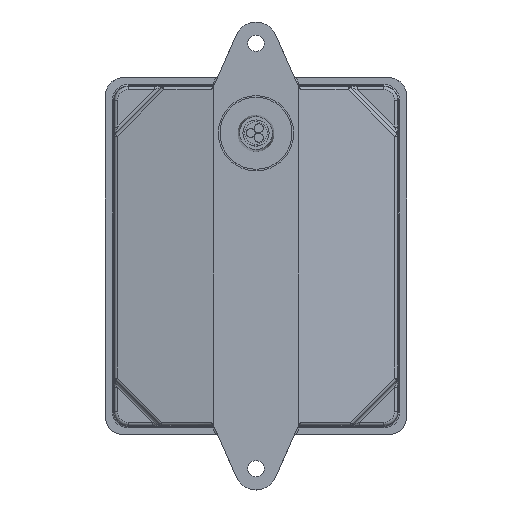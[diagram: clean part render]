
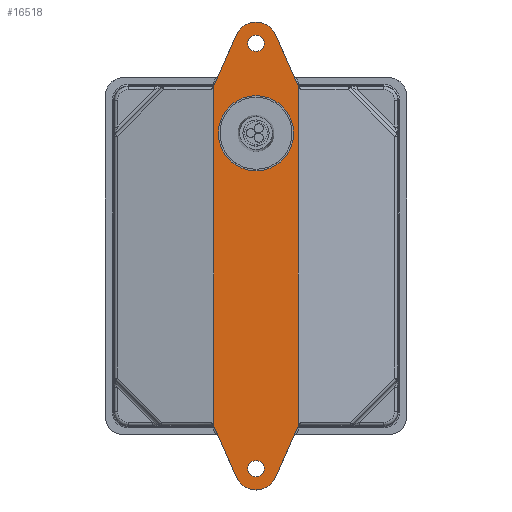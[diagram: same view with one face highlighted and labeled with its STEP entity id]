
A CAD part, top view. The second image highlights one B-rep face of the part: STEP entity #16518.
In plain terms, the highlighted planar face has unit normal (0, 0, 1).
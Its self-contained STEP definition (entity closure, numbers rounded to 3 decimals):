
#413 = DIRECTION ( 'NONE',  ( 1., 0., 0. ) ) ;
#1567 = CARTESIAN_POINT ( 'NONE',  ( 0., 65., 28. ) ) ;
#1583 = EDGE_CURVE ( 'NONE', #11313, #35223, #40993, .T. ) ;
#2432 = CARTESIAN_POINT ( 'NONE',  ( 0., -65., 28. ) ) ;
#3131 = CARTESIAN_POINT ( 'NONE',  ( -12.85, -52., 28. ) ) ;
#3184 = CARTESIAN_POINT ( 'NONE',  ( -2.5, 65., 28. ) ) ;
#3216 = EDGE_CURVE ( 'NONE', #8241, #9857, #29990, .T. ) ;
#3522 = EDGE_CURVE ( 'NONE', #11129, #5382, #36319, .T. ) ;
#3781 = DIRECTION ( 'NONE',  ( 0., 0., 1. ) ) ;
#4247 = ORIENTED_EDGE ( 'NONE', *, *, #27236, .F. ) ;
#4343 = CIRCLE ( 'NONE', #30951, 2.5 ) ;
#4799 = ORIENTED_EDGE ( 'NONE', *, *, #36226, .T. ) ;
#5228 = DIRECTION ( 'NONE',  ( 1., 0., 0. ) ) ;
#5379 = CARTESIAN_POINT ( 'NONE',  ( 12.85, 52., 28. ) ) ;
#5382 = VERTEX_POINT ( 'NONE', #10125 ) ;
#5772 = CARTESIAN_POINT ( 'NONE',  ( 0., 37.5, 28. ) ) ;
#5804 = CIRCLE ( 'NONE', #29713, 11.5 ) ;
#6055 = CARTESIAN_POINT ( 'NONE',  ( 12.85, 49., 28. ) ) ;
#6125 = EDGE_CURVE ( 'NONE', #39515, #27018, #35369, .T. ) ;
#6415 = CIRCLE ( 'NONE', #33030, 2.5 ) ;
#7808 = EDGE_CURVE ( 'NONE', #8241, #5382, #17061, .T. ) ;
#7934 = EDGE_LOOP ( 'NONE', ( #15956, #38931 ) ) ;
#8241 = VERTEX_POINT ( 'NONE', #3131 ) ;
#8479 = DIRECTION ( 'NONE',  ( 0., 0., 1. ) ) ;
#8578 = VECTOR ( 'NONE', #29978, 1000. ) ;
#8688 = VECTOR ( 'NONE', #9804, 1000. ) ;
#9538 = FACE_BOUND ( 'NONE', #7934, .T. ) ;
#9804 = DIRECTION ( 'NONE',  ( -0.404, -0.915, 0. ) ) ;
#9857 = VERTEX_POINT ( 'NONE', #33108 ) ;
#9949 = FACE_OUTER_BOUND ( 'NONE', #41086, .T. ) ;
#10125 = CARTESIAN_POINT ( 'NONE',  ( -12.85, 52., 28. ) ) ;
#10536 = DIRECTION ( 'NONE',  ( 0.404, 0.915, 0. ) ) ;
#10705 = ORIENTED_EDGE ( 'NONE', *, *, #3216, .T. ) ;
#10858 = DIRECTION ( 'NONE',  ( 0., 0., 1. ) ) ;
#11129 = VERTEX_POINT ( 'NONE', #28239 ) ;
#11313 = VERTEX_POINT ( 'NONE', #21540 ) ;
#11442 = CIRCLE ( 'NONE', #12790, 11.5 ) ;
#12790 = AXIS2_PLACEMENT_3D ( 'NONE', #5772, #14796, #34221 ) ;
#13438 = ORIENTED_EDGE ( 'NONE', *, *, #6125, .F. ) ;
#13742 = CARTESIAN_POINT ( 'NONE',  ( -12.85, -52., 28. ) ) ;
#14145 = DIRECTION ( 'NONE',  ( 1., 0., 0. ) ) ;
#14469 = EDGE_CURVE ( 'NONE', #31346, #35316, #5804, .T. ) ;
#14796 = DIRECTION ( 'NONE',  ( 0., 0., 1. ) ) ;
#14975 = VECTOR ( 'NONE', #19312, 1000. ) ;
#15094 = CARTESIAN_POINT ( 'NONE',  ( 12.85, -52., 28. ) ) ;
#15244 = DIRECTION ( 'NONE',  ( 0., 0., 1. ) ) ;
#15517 = CARTESIAN_POINT ( 'NONE',  ( 0., 65., 28. ) ) ;
#15956 = ORIENTED_EDGE ( 'NONE', *, *, #39102, .F. ) ;
#16197 = EDGE_LOOP ( 'NONE', ( #40883, #40099 ) ) ;
#16490 = CARTESIAN_POINT ( 'NONE',  ( 12.85, -52., 28. ) ) ;
#16518 = ADVANCED_FACE ( 'NONE', ( #9949, #32585, #9538, #19784 ), #29397, .T. ) ;
#16805 = DIRECTION ( 'NONE',  ( 1., 0., 0. ) ) ;
#16891 = CIRCLE ( 'NONE', #24439, 2.5 ) ;
#17061 = LINE ( 'NONE', #20508, #36065 ) ;
#17338 = CARTESIAN_POINT ( 'NONE',  ( 40.5, 49., 28. ) ) ;
#17523 = AXIS2_PLACEMENT_3D ( 'NONE', #17338, #30381, #14145 ) ;
#18671 = DIRECTION ( 'NONE',  ( 0., 0., 1. ) ) ;
#19111 = CIRCLE ( 'NONE', #20504, 6.5 ) ;
#19312 = DIRECTION ( 'NONE',  ( 0., -1., 0. ) ) ;
#19511 = LINE ( 'NONE', #38976, #8578 ) ;
#19784 = FACE_BOUND ( 'NONE', #16197, .T. ) ;
#20042 = DIRECTION ( 'NONE',  ( 1., 0., 0. ) ) ;
#20309 = CARTESIAN_POINT ( 'NONE',  ( 2.5, -65., 28. ) ) ;
#20357 = VERTEX_POINT ( 'NONE', #31140 ) ;
#20476 = CARTESIAN_POINT ( 'NONE',  ( 0., 65., 28. ) ) ;
#20504 = AXIS2_PLACEMENT_3D ( 'NONE', #1567, #27203, #27407 ) ;
#20508 = CARTESIAN_POINT ( 'NONE',  ( -12.85, 49., 28. ) ) ;
#20609 = DIRECTION ( 'NONE',  ( 0.404, -0.915, 0. ) ) ;
#20656 = VERTEX_POINT ( 'NONE', #40078 ) ;
#21540 = CARTESIAN_POINT ( 'NONE',  ( -2.5, -65., 28. ) ) ;
#22375 = DIRECTION ( 'NONE',  ( 1., 0., 0. ) ) ;
#22565 = AXIS2_PLACEMENT_3D ( 'NONE', #40332, #3781, #16805 ) ;
#22963 = VECTOR ( 'NONE', #20609, 1000. ) ;
#22991 = VERTEX_POINT ( 'NONE', #3184 ) ;
#24439 = AXIS2_PLACEMENT_3D ( 'NONE', #20476, #10858, #20042 ) ;
#24484 = ORIENTED_EDGE ( 'NONE', *, *, #41799, .T. ) ;
#24820 = CARTESIAN_POINT ( 'NONE',  ( 5.946, -67.627, 28. ) ) ;
#26221 = VECTOR ( 'NONE', #10536, 1000. ) ;
#26698 = CARTESIAN_POINT ( 'NONE',  ( -12.85, 52., 28. ) ) ;
#26780 = LINE ( 'NONE', #16490, #26221 ) ;
#27018 = VERTEX_POINT ( 'NONE', #15094 ) ;
#27203 = DIRECTION ( 'NONE',  ( 0., 0., 1. ) ) ;
#27236 = EDGE_CURVE ( 'NONE', #35316, #31346, #11442, .T. ) ;
#27319 = CARTESIAN_POINT ( 'NONE',  ( 0., 37.5, 28. ) ) ;
#27407 = DIRECTION ( 'NONE',  ( -1., 0., 0. ) ) ;
#27934 = EDGE_CURVE ( 'NONE', #22991, #20656, #16891, .T. ) ;
#28100 = CARTESIAN_POINT ( 'NONE',  ( 0., -65., 28. ) ) ;
#28239 = CARTESIAN_POINT ( 'NONE',  ( -5.946, 67.627, 28. ) ) ;
#29186 = ORIENTED_EDGE ( 'NONE', *, *, #7808, .F. ) ;
#29397 = PLANE ( 'NONE',  #17523 ) ;
#29713 = AXIS2_PLACEMENT_3D ( 'NONE', #27319, #40352, #413 ) ;
#29978 = DIRECTION ( 'NONE',  ( -0.404, 0.915, 0. ) ) ;
#29990 = LINE ( 'NONE', #13742, #22963 ) ;
#30381 = DIRECTION ( 'NONE',  ( 0., 0., 1. ) ) ;
#30951 = AXIS2_PLACEMENT_3D ( 'NONE', #28100, #15244, #33848 ) ;
#31140 = CARTESIAN_POINT ( 'NONE',  ( 5.946, 67.627, 28. ) ) ;
#31346 = VERTEX_POINT ( 'NONE', #36353 ) ;
#31692 = CIRCLE ( 'NONE', #37174, 6.5 ) ;
#32585 = FACE_BOUND ( 'NONE', #35517, .T. ) ;
#32948 = ORIENTED_EDGE ( 'NONE', *, *, #14469, .F. ) ;
#33030 = AXIS2_PLACEMENT_3D ( 'NONE', #15517, #8479, #22375 ) ;
#33108 = CARTESIAN_POINT ( 'NONE',  ( -5.946, -67.627, 28. ) ) ;
#33617 = ORIENTED_EDGE ( 'NONE', *, *, #3522, .T. ) ;
#33724 = DIRECTION ( 'NONE',  ( 0., 1., 0. ) ) ;
#33848 = DIRECTION ( 'NONE',  ( 1., 0., 0. ) ) ;
#34221 = DIRECTION ( 'NONE',  ( 1., 0., 0. ) ) ;
#34807 = CARTESIAN_POINT ( 'NONE',  ( 11.5, 37.5, 28. ) ) ;
#35223 = VERTEX_POINT ( 'NONE', #20309 ) ;
#35316 = VERTEX_POINT ( 'NONE', #34807 ) ;
#35369 = LINE ( 'NONE', #6055, #14975 ) ;
#35517 = EDGE_LOOP ( 'NONE', ( #4247, #32948 ) ) ;
#36065 = VECTOR ( 'NONE', #33724, 1000. ) ;
#36226 = EDGE_CURVE ( 'NONE', #20357, #11129, #19111, .T. ) ;
#36319 = LINE ( 'NONE', #26698, #8688 ) ;
#36353 = CARTESIAN_POINT ( 'NONE',  ( -11.5, 37.5, 28. ) ) ;
#37174 = AXIS2_PLACEMENT_3D ( 'NONE', #2432, #18671, #5228 ) ;
#37619 = ORIENTED_EDGE ( 'NONE', *, *, #41108, .T. ) ;
#38931 = ORIENTED_EDGE ( 'NONE', *, *, #1583, .F. ) ;
#38976 = CARTESIAN_POINT ( 'NONE',  ( 12.85, 52., 28. ) ) ;
#39102 = EDGE_CURVE ( 'NONE', #35223, #11313, #4343, .T. ) ;
#39327 = EDGE_CURVE ( 'NONE', #41309, #27018, #26780, .T. ) ;
#39515 = VERTEX_POINT ( 'NONE', #5379 ) ;
#40078 = CARTESIAN_POINT ( 'NONE',  ( 2.5, 65., 28. ) ) ;
#40099 = ORIENTED_EDGE ( 'NONE', *, *, #27934, .F. ) ;
#40332 = CARTESIAN_POINT ( 'NONE',  ( 0., -65., 28. ) ) ;
#40352 = DIRECTION ( 'NONE',  ( 0., 0., 1. ) ) ;
#40872 = EDGE_CURVE ( 'NONE', #20656, #22991, #6415, .T. ) ;
#40883 = ORIENTED_EDGE ( 'NONE', *, *, #40872, .F. ) ;
#40993 = CIRCLE ( 'NONE', #22565, 2.5 ) ;
#41086 = EDGE_LOOP ( 'NONE', ( #33617, #29186, #10705, #37619, #41468, #13438, #24484, #4799 ) ) ;
#41108 = EDGE_CURVE ( 'NONE', #9857, #41309, #31692, .T. ) ;
#41309 = VERTEX_POINT ( 'NONE', #24820 ) ;
#41468 = ORIENTED_EDGE ( 'NONE', *, *, #39327, .T. ) ;
#41799 = EDGE_CURVE ( 'NONE', #39515, #20357, #19511, .T. ) ;
